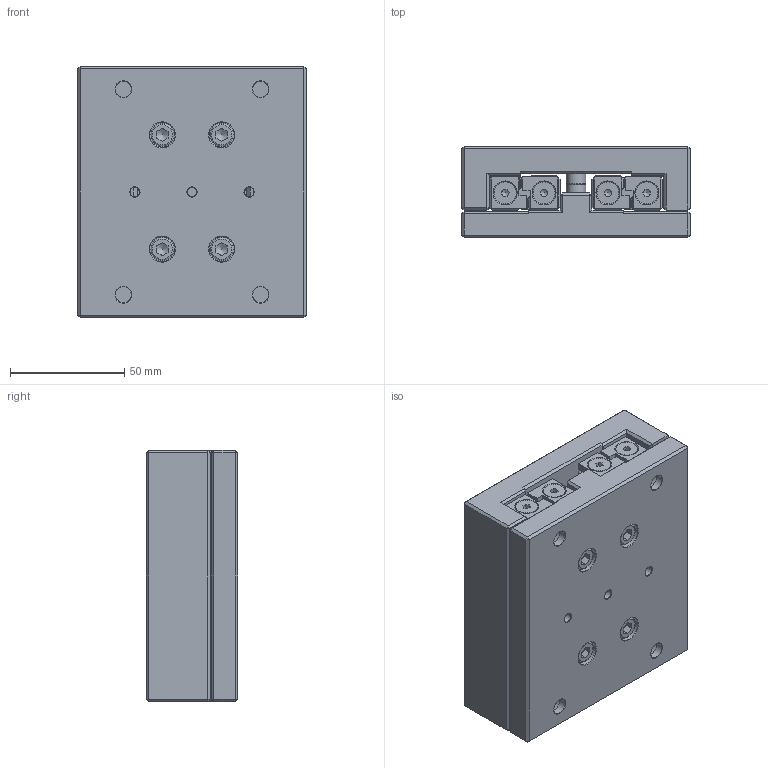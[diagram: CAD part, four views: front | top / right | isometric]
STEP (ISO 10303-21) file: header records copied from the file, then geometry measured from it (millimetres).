
FILE_DESCRIPTION(/* description */ ('Tavola TRL06 L=110 mm'),/* implementation_level */ '2;1');
FILE_NAME(/* name */ 'TRL060110-00.stp',/* time_stamp */ '2024-02-07T08:51:33+01:00',/* author */ ('Rosa sistemi'),/* organization */ (''),/* preprocessor_version */ 'ST-DEVELOPER v20',/* originating_system */ 'Autodesk Inventor 2024',/* authorisation */ '');
FILE_SCHEMA (('AUTOMOTIVE_DESIGN { 1 0 10303 214 3 1 1 }'));
Length unit declared in the file: millimetre
Products named in the file (2): TRL060110-00; TRL060110-00_1
Assembly tree (1 placements, depth 2):
  TRL060110-00
    TRL060110-00_1
Bounding box: 100 x 40 x 110 mm (x, y, z)
Volume: 393149.3 mm3; surface area: 88231.4 mm2
Topology: 10 solids, 10 shells, 1339 faces, 3525 edges, 2294 vertices
Faces by surface type: plane 884, bspline 196, cylinder 149, cone 83, torus 27
Full cylindrical faces by diameter (mm): 1.548 x5, 4.134 x11, 4.256 x5, 6 x12, 7 x4, 8.5 x3, 9.5 x8, 9.64 x8, 10 x8, 11 x12
Entity records: 42632 total; most frequent: CARTESIAN_POINT 9974, ORIENTED_EDGE 7008, DIRECTION 5828, EDGE_CURVE 3504, LINE 2402, VECTOR 2402, VERTEX_POINT 2294, AXIS2_PLACEMENT_3D 1713
